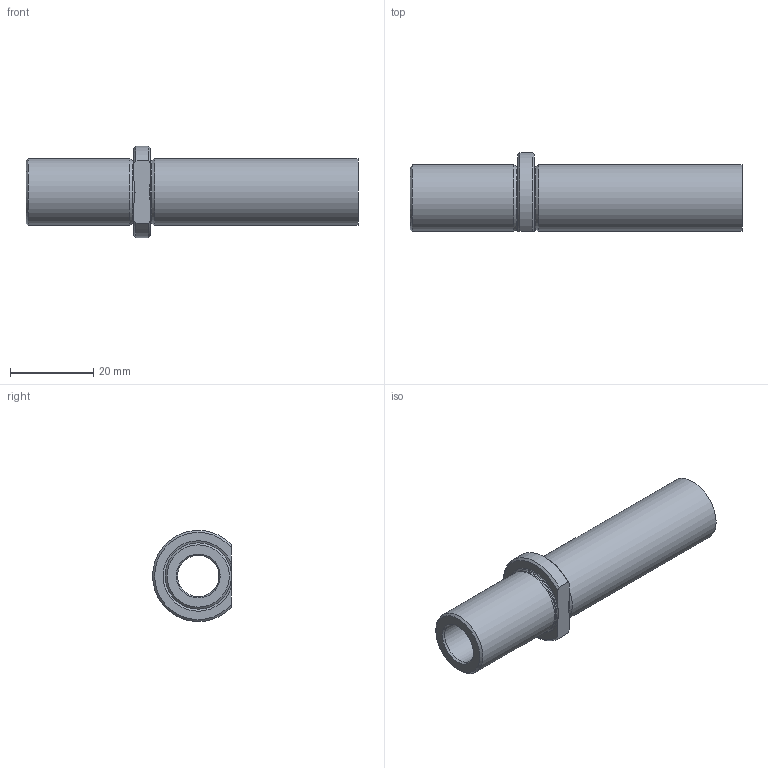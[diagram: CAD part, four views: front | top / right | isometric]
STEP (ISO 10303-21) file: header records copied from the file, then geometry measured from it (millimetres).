
FILE_DESCRIPTION(('STEP AP214'),'1');
FILE_NAME('CS51110_26-16-80-10.stp','2019-09-16T07:33:16',(' '),(' '),'Spatial InterOp 3D',' ',' ');
FILE_SCHEMA(('AUTOMOTIVE_DESIGN { 1 0 10303 214 1 1 1 1 }'));
Length unit declared in the file: millimetre
Products named in the file (1): CS51110/26-16-80-10
Bounding box: 80 x 19 x 21.98 mm (x, y, z)
Volume: 9984.8 mm3; surface area: 7203.6 mm2
Topology: 1 solids, 1 shells, 24 faces, 53 edges, 31 vertices
Faces by surface type: cone 9, cylinder 6, plane 5, torus 4
Full cylindrical faces by diameter (mm): 10 x1, 15.3 x2, 16 x2
Entity records: 807 total; most frequent: CARTESIAN_POINT 112, DIRECTION 102, ORIENTED_EDGE 70, AXIS2_PLACEMENT_3D 48, EDGE_LOOP 42, EDGE_CURVE 35, FACE_OUTER_BOUND 33, VERTEX_POINT 29
